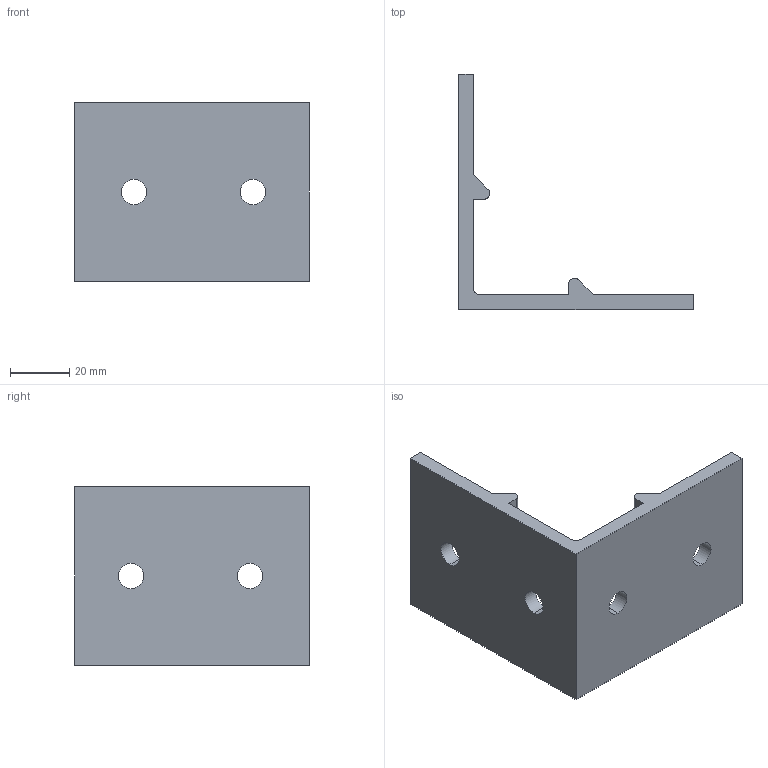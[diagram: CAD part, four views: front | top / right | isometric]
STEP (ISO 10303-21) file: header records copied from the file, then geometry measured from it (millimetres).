
FILE_DESCRIPTION (( 'STEP AP214' ), '1' );
FILE_NAME ('FBAB 60L.step', '2017-04-05T08:00:42', ( '' ), ( '' ), 'SwSTEP 2.0', 'SolidWorks 2015', '' );
FILE_SCHEMA (( 'AUTOMOTIVE_DESIGN' ));
Length unit declared in the file: millimetre
Products named in the file (1): FBAB 60L
Bounding box: 79 x 79 x 60 mm (x, y, z)
Volume: 48356.2 mm3; surface area: 21453.4 mm2
Topology: 1 solids, 1 shells, 26 faces, 72 edges, 48 vertices
Faces by surface type: plane 14, cylinder 12
Entity records: 890 total; most frequent: DIRECTION 150, CARTESIAN_POINT 147, ORIENTED_EDGE 144, EDGE_CURVE 72, AXIS2_PLACEMENT_3D 51, LINE 48, VERTEX_POINT 48, VECTOR 48
